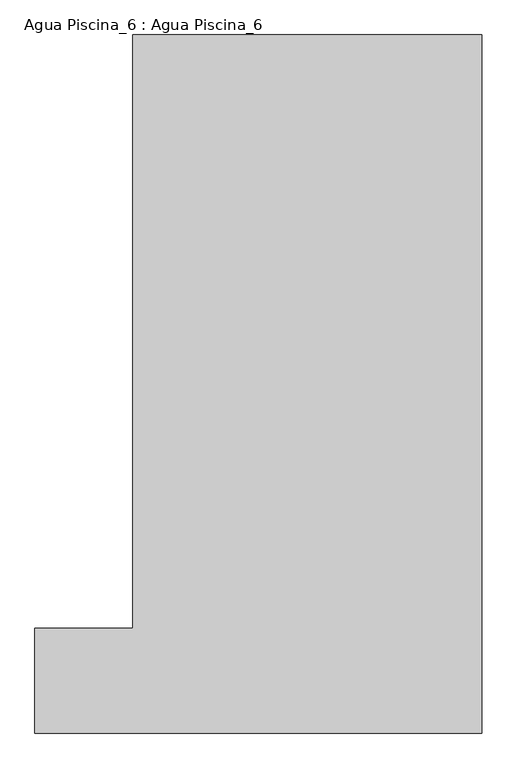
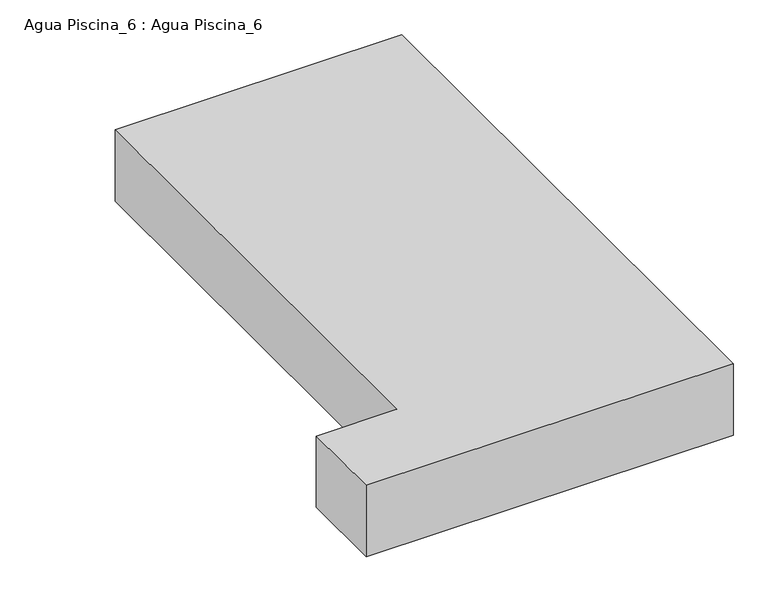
"""IFC4 building model written with IfcOpenShell, lengths in millimetres: proxy geometry, Agua Piscina_6 : Agua Piscina_6."""

from ifc_helpers import new_model, si_unit, frame, origin, place, context, project, spatial, polyline, outline, extrude, source, transform, mapped, element, save


def agua_piscina_6_agua_piscina_6_d0c34d84(model_context):
    return source(origin(), model_context, "Body", "SweptSolid", [
        extrude(outline(polyline([(11417.0999533, 4961.1052517), (12537.0999533, 4961.1052517), (12537.0999533, 11761.1052517), (16537.0999533, 11761.1052517), (16537.0999533, 3761.1052517), (11417.0999533, 3761.1052517), (11417.0999533, 4961.1052517)])), frame((0.0, 0.0, -1121.0503906), z_axis=(0.0, 0.0, 1.0), x_axis=(1.0, 0.0, 0.0)), (0.0, 0.0, 1.0), 1050.9742798),
    ])


if __name__ == "__main__":
    model = new_model("IFC4")
    model_context = context("Model", 3, world=origin())
    ifc_project = project(units=[si_unit("LENGTHUNIT", "METRE", prefix="MILLI")], contexts=[model_context])
    site = spatial("IfcSite", under=ifc_project)
    building = spatial("IfcBuilding", under=site)
    placement = place(None, origin())
    agua_piscina_6_agua_piscina_6_shape = agua_piscina_6_agua_piscina_6_d0c34d84(model_context)
    element("IfcBuildingElementProxy", 1, Name="Agua Piscina_6 : Agua Piscina_6", ObjectType="Agua Piscina_6 : Agua Piscina_6", at=placement, inside=building, context=model_context, shape_type="MappedRepresentation", body=[
        mapped(agua_piscina_6_agua_piscina_6_shape, transform((0.0, 0.0, 0.0), x_axis=(1.0, 0.0, 0.0), y_axis=(0.0, 1.0, 0.0), z_axis=(0.0, 0.0, 1.0))),
    ])
    save(model, "model.ifc")
